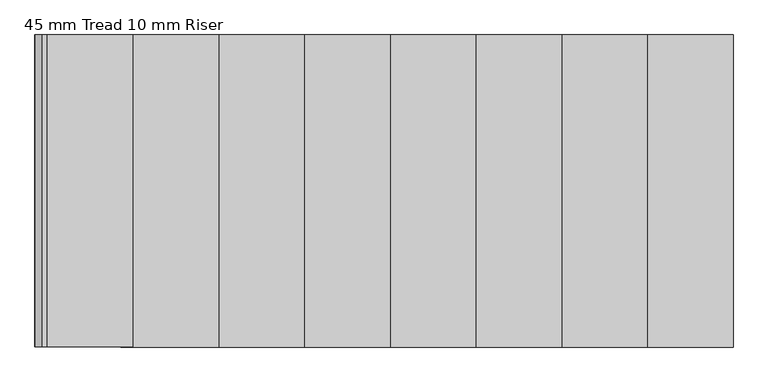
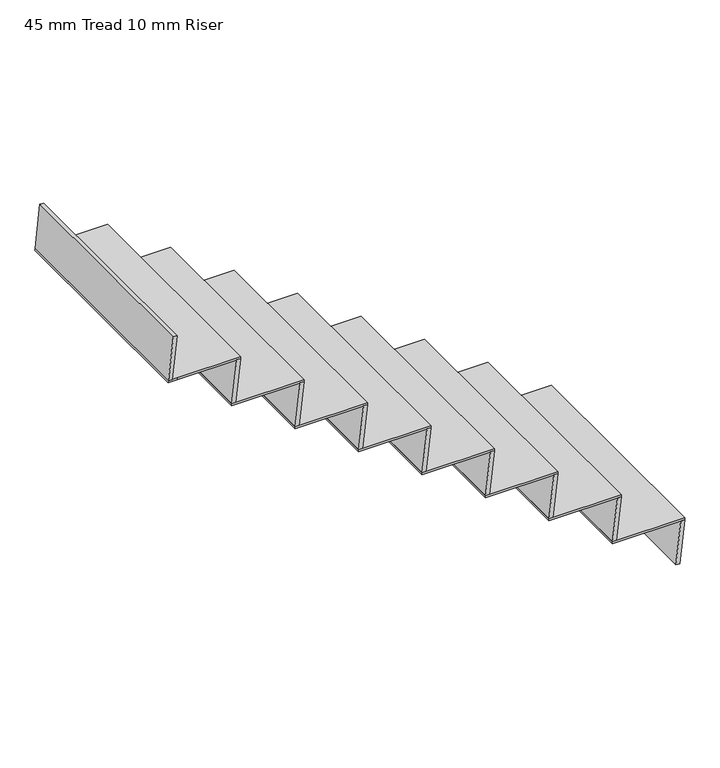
"""IFC4 building model written with IfcOpenShell, lengths in millimetres: stair flight geometry, 45 mm Tread 10 mm Riser."""

from ifc_helpers import new_model, si_unit, origin, place, context, project, spatial, faceted_brep, source, transform, mapped, element, save


def stair_flight_45_mm_tread_10_mm_riser_bd22e289(model_context):
    return source(origin(), model_context, "Body", "Brep", [
        faceted_brep([(14699.6818516, 8759.9999985, 5225.8333333), (14680.5000334, 8759.9999985, 5050.0), (14665.4110412, 8759.9999985, 5050.0), (14684.5928593, 8759.9999985, 5225.8333333), (14699.6818516, 7849.9999985, 5225.8333333), (14684.5928593, 7849.9999985, 5225.8333333), (14665.4110412, 7849.9999985, 5050.0), (14680.5000334, 7849.9999985, 5050.0)], [[[0, 1, 2, 3]], [[4, 5, 6, 7]], [[1, 0, 4, 7]], [[2, 1, 7, 6]], [[3, 2, 6, 5]], [[0, 3, 5, 4]]]),
        faceted_brep([(14415.4110412, 7849.9999985, 5233.3333333), (14700.5000334, 7849.9999985, 5233.3333333), (14700.5000334, 8759.9999985, 5233.3333333), (14415.4110412, 8759.9999985, 5233.3333333), (14414.5928593, 7849.9999985, 5225.8333333), (14414.5928593, 8759.9999985, 5225.8333333), (14699.6818516, 8759.9999985, 5225.8333333), (14699.6818516, 7849.9999985, 5225.8333333)], [[[0, 1, 2, 3]], [[4, 5, 6, 7]], [[1, 0, 4, 7]], [[3, 2, 6, 5]], [[3, 5, 4, 0]], [[2, 1, 7, 6]]]),
        faceted_brep([(14449.6818516, 8759.9999985, 5409.1666667), (14430.5000334, 8759.9999985, 5233.3333333), (14415.4110412, 8759.9999985, 5233.3333333), (14434.5928593, 8759.9999985, 5409.1666667), (14449.6818516, 7849.9999985, 5409.1666667), (14434.5928593, 7849.9999985, 5409.1666667), (14415.4110412, 7849.9999985, 5233.3333333), (14430.5000334, 7849.9999985, 5233.3333333)], [[[0, 1, 2, 3]], [[4, 5, 6, 7]], [[1, 0, 4, 7]], [[2, 1, 7, 6]], [[3, 2, 6, 5]], [[0, 3, 5, 4]]]),
        faceted_brep([(14165.4110412, 7849.9999985, 5416.6666667), (14450.5000334, 7849.9999985, 5416.6666667), (14450.5000334, 8759.9999985, 5416.6666667), (14165.4110412, 8759.9999985, 5416.6666667), (14164.5928593, 7849.9999985, 5409.1666667), (14164.5928593, 8759.9999985, 5409.1666667), (14449.6818516, 8759.9999985, 5409.1666667), (14449.6818516, 7849.9999985, 5409.1666667)], [[[0, 1, 2, 3]], [[4, 5, 6, 7]], [[1, 0, 4, 7]], [[3, 2, 6, 5]], [[3, 5, 4, 0]], [[2, 1, 7, 6]]]),
        faceted_brep([(14199.6818516, 8759.9999985, 5592.5), (14180.5000334, 8759.9999985, 5416.6666667), (14165.4110412, 8759.9999985, 5416.6666667), (14184.5928593, 8759.9999985, 5592.5), (14199.6818516, 7849.9999985, 5592.5), (14184.5928593, 7849.9999985, 5592.5), (14165.4110412, 7849.9999985, 5416.6666667), (14180.5000334, 7849.9999985, 5416.6666667)], [[[0, 1, 2, 3]], [[4, 5, 6, 7]], [[1, 0, 4, 7]], [[2, 1, 7, 6]], [[3, 2, 6, 5]], [[0, 3, 5, 4]]]),
        faceted_brep([(13915.4110412, 7849.9999985, 5600.0), (14200.5000334, 7849.9999985, 5600.0), (14200.5000334, 8759.9999985, 5600.0), (13915.4110412, 8759.9999985, 5600.0), (13914.5928593, 7849.9999985, 5592.5), (13914.5928593, 8759.9999985, 5592.5), (14199.6818516, 8759.9999985, 5592.5), (14199.6818516, 7849.9999985, 5592.5)], [[[0, 1, 2, 3]], [[4, 5, 6, 7]], [[1, 0, 4, 7]], [[3, 2, 6, 5]], [[3, 5, 4, 0]], [[2, 1, 7, 6]]]),
        faceted_brep([(13949.6818516, 8759.9999985, 5775.8333333), (13930.5000334, 8759.9999985, 5600.0), (13915.4110412, 8759.9999985, 5600.0), (13934.5928593, 8759.9999985, 5775.8333333), (13949.6818516, 7849.9999985, 5775.8333333), (13934.5928593, 7849.9999985, 5775.8333333), (13915.4110412, 7849.9999985, 5600.0), (13930.5000334, 7849.9999985, 5600.0)], [[[0, 1, 2, 3]], [[4, 5, 6, 7]], [[1, 0, 4, 7]], [[2, 1, 7, 6]], [[3, 2, 6, 5]], [[0, 3, 5, 4]]]),
        faceted_brep([(13665.4110412, 7849.9999985, 5783.3333333), (13950.5000334, 7849.9999985, 5783.3333333), (13950.5000334, 8759.9999985, 5783.3333333), (13665.4110412, 8759.9999985, 5783.3333333), (13664.5928593, 7849.9999985, 5775.8333333), (13664.5928593, 8759.9999985, 5775.8333333), (13949.6818516, 8759.9999985, 5775.8333333), (13949.6818516, 7849.9999985, 5775.8333333)], [[[0, 1, 2, 3]], [[4, 5, 6, 7]], [[1, 0, 4, 7]], [[3, 2, 6, 5]], [[3, 5, 4, 0]], [[2, 1, 7, 6]]]),
        faceted_brep([(13699.6818516, 8759.9999985, 5959.1666667), (13680.5000334, 8759.9999985, 5783.3333333), (13665.4110412, 8759.9999985, 5783.3333333), (13684.5928593, 8759.9999985, 5959.1666667), (13699.6818516, 7849.9999985, 5959.1666667), (13684.5928593, 7849.9999985, 5959.1666667), (13665.4110412, 7849.9999985, 5783.3333333), (13680.5000334, 7849.9999985, 5783.3333333)], [[[0, 1, 2, 3]], [[4, 5, 6, 7]], [[1, 0, 4, 7]], [[2, 1, 7, 6]], [[3, 2, 6, 5]], [[0, 3, 5, 4]]]),
        faceted_brep([(13415.4110412, 7849.9999985, 5966.6666667), (13700.5000334, 7849.9999985, 5966.6666667), (13700.5000334, 8759.9999985, 5966.6666667), (13415.4110412, 8759.9999985, 5966.6666667), (13414.5928593, 7849.9999985, 5959.1666667), (13414.5928593, 8759.9999985, 5959.1666667), (13699.6818516, 8759.9999985, 5959.1666667), (13699.6818516, 7849.9999985, 5959.1666667)], [[[0, 1, 2, 3]], [[4, 5, 6, 7]], [[1, 0, 4, 7]], [[3, 2, 6, 5]], [[3, 5, 4, 0]], [[2, 1, 7, 6]]]),
        faceted_brep([(13449.6818516, 8759.9999985, 6142.5), (13430.5000334, 8759.9999985, 5966.6666667), (13415.4110412, 8759.9999985, 5966.6666667), (13434.5928593, 8759.9999985, 6142.5), (13449.6818516, 7849.9999985, 6142.5), (13434.5928593, 7849.9999985, 6142.5), (13415.4110412, 7849.9999985, 5966.6666667), (13430.5000334, 7849.9999985, 5966.6666667)], [[[0, 1, 2, 3]], [[4, 5, 6, 7]], [[1, 0, 4, 7]], [[2, 1, 7, 6]], [[3, 2, 6, 5]], [[0, 3, 5, 4]]]),
        faceted_brep([(13165.4110412, 7849.9999985, 6150.0), (13450.5000334, 7849.9999985, 6150.0), (13450.5000334, 8759.9999985, 6150.0), (13165.4110412, 8759.9999985, 6150.0), (13164.5928593, 7849.9999985, 6142.5), (13164.5928593, 8759.9999985, 6142.5), (13449.6818516, 8759.9999985, 6142.5), (13449.6818516, 7849.9999985, 6142.5)], [[[0, 1, 2, 3]], [[4, 5, 6, 7]], [[1, 0, 4, 7]], [[3, 2, 6, 5]], [[3, 5, 4, 0]], [[2, 1, 7, 6]]]),
        faceted_brep([(13199.6818516, 8759.9999985, 6325.8333333), (13180.5000334, 8759.9999985, 6150.0), (13165.4110412, 8759.9999985, 6150.0), (13184.5928593, 8759.9999985, 6325.8333333), (13199.6818516, 7849.9999985, 6325.8333333), (13184.5928593, 7849.9999985, 6325.8333333), (13165.4110412, 7849.9999985, 6150.0), (13180.5000334, 7849.9999985, 6150.0)], [[[0, 1, 2, 3]], [[4, 5, 6, 7]], [[1, 0, 4, 7]], [[2, 1, 7, 6]], [[3, 2, 6, 5]], [[0, 3, 5, 4]]]),
        faceted_brep([(12915.4110412, 7849.9999985, 6333.3333333), (13200.5000334, 7849.9999985, 6333.3333333), (13200.5000334, 8759.9999985, 6333.3333333), (12915.4110412, 8759.9999985, 6333.3333333), (12914.5928593, 7849.9999985, 6325.8333333), (12914.5928593, 8759.9999985, 6325.8333333), (13199.6818516, 8759.9999985, 6325.8333333), (13199.6818516, 7849.9999985, 6325.8333333)], [[[0, 1, 2, 3]], [[4, 5, 6, 7]], [[1, 0, 4, 7]], [[3, 2, 6, 5]], [[3, 5, 4, 0]], [[2, 1, 7, 6]]]),
        faceted_brep([(12699.6818516, 8759.9999985, 6692.5), (12680.5000334, 8759.9999985, 6516.6666667), (12665.4110412, 8759.9999985, 6516.6666667), (12684.5928593, 8759.9999985, 6692.5), (12699.6818516, 7849.9999985, 6692.5), (12684.5928593, 7849.9999985, 6692.5), (12665.4110412, 7849.9999985, 6516.6666667), (12680.5000334, 7849.9999985, 6516.6666667)], [[[0, 1, 2, 3]], [[4, 5, 6, 7]], [[1, 0, 4, 7]], [[2, 1, 7, 6]], [[3, 2, 6, 5]], [[0, 3, 5, 4]]]),
        faceted_brep([(12949.6818516, 8759.9999985, 6509.1666667), (12930.5000334, 8759.9999985, 6333.3333333), (12915.4110412, 8759.9999985, 6333.3333333), (12934.5928593, 8759.9999985, 6509.1666667), (12949.6818516, 7849.9999985, 6509.1666667), (12934.5928593, 7849.9999985, 6509.1666667), (12915.4110412, 7849.9999985, 6333.3333333), (12930.5000334, 7849.9999985, 6333.3333333)], [[[0, 1, 2, 3]], [[4, 5, 6, 7]], [[1, 0, 4, 7]], [[2, 1, 7, 6]], [[3, 2, 6, 5]], [[0, 3, 5, 4]]]),
        faceted_brep([(12665.4110412, 7849.9999985, 6516.6666667), (12700.5000334, 7849.9999985, 6516.6666667), (12950.5000334, 7849.9999985, 6516.6666667), (12950.5000334, 8759.9999985, 6516.6666667), (12700.5000334, 8759.9999985, 6516.6666667), (12665.4110412, 8759.9999985, 6516.6666667), (12664.5928593, 7849.9999985, 6509.1666667), (12664.5928593, 8759.9999985, 6509.1666667), (12700.5000334, 8759.9999985, 6509.1666667), (12949.6818516, 8759.9999985, 6509.1666667), (12949.6818516, 7849.9999985, 6509.1666667), (12700.5000334, 7849.9999985, 6509.1666667)], [[[0, 1, 2, 3, 4, 5]], [[6, 7, 8, 9, 10, 11]], [[1, 0, 6, 11]], [[2, 1, 11, 10]], [[4, 3, 9, 8]], [[5, 4, 8, 7]], [[5, 7, 6, 0]], [[3, 2, 10, 9]]]),
    ])


if __name__ == "__main__":
    model = new_model("IFC4")
    model_context = context("Model", 3, world=origin())
    ifc_project = project(units=[si_unit("LENGTHUNIT", "METRE", prefix="MILLI")], contexts=[model_context])
    site = spatial("IfcSite", under=ifc_project)
    building = spatial("IfcBuilding", under=site)
    placement = place(None, origin())
    stair_flight_45_mm_tread_10_mm_riser_shape = stair_flight_45_mm_tread_10_mm_riser_bd22e289(model_context)
    element("IfcStairFlight", 1, ObjectType="45 mm Tread 10 mm Riser", at=placement, inside=building, context=model_context, shape_type="MappedRepresentation", body=[
        mapped(stair_flight_45_mm_tread_10_mm_riser_shape, transform((0.0, 0.0, 0.0), x_axis=(1.0, 0.0, 0.0), y_axis=(0.0, 1.0, 0.0), z_axis=(0.0, 0.0, 1.0))),
    ])
    save(model, "model.ifc")
